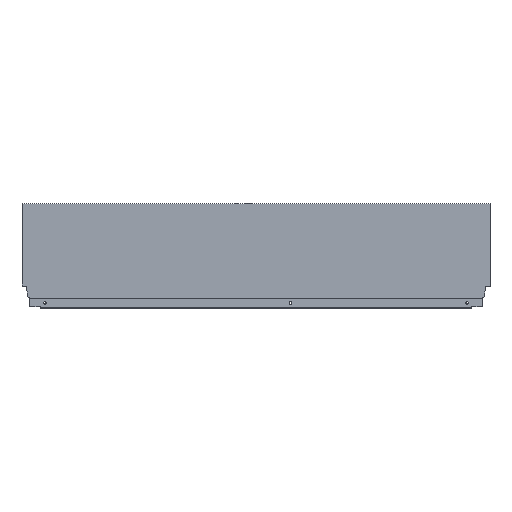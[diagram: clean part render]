
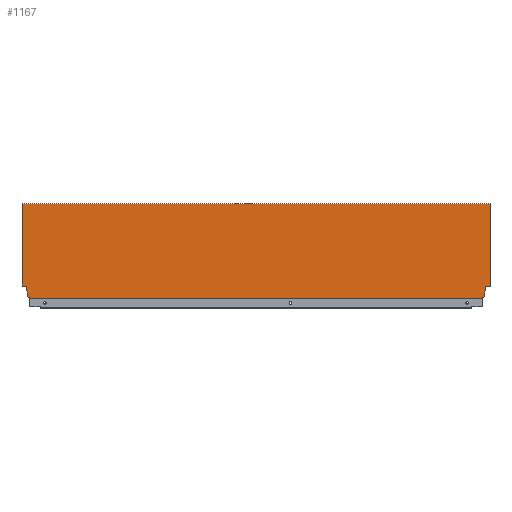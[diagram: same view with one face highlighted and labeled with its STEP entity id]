
A CAD part, top view. The second image highlights one B-rep face of the part: STEP entity #1167.
In plain terms, the highlighted planar face has unit normal (0, 0, 1).
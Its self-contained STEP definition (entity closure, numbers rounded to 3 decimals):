
#4 = PLANE ( 'NONE',  #809 ) ;
#90 = DIRECTION ( 'NONE',  ( 0., -1., 0. ) ) ;
#92 = CARTESIAN_POINT ( 'NONE',  ( -815., 164.7, 7.5 ) ) ;
#93 = DIRECTION ( 'NONE',  ( 1., 0., 0. ) ) ;
#95 = CARTESIAN_POINT ( 'NONE',  ( -13.004, 1.146, 7.5 ) ) ;
#235 = CARTESIAN_POINT ( 'NONE',  ( -815., 21.2, 7.5 ) ) ;
#236 = CARTESIAN_POINT ( 'NONE',  ( -8.9, 10.765, 7.5 ) ) ;
#238 = CARTESIAN_POINT ( 'NONE',  ( -801.996, 1.146, 7.5 ) ) ;
#240 = CARTESIAN_POINT ( 'NONE',  ( -7.06, 21.2, 7.5 ) ) ;
#245 = CARTESIAN_POINT ( 'NONE',  ( -807.94, 21.2, 7.5 ) ) ;
#247 = CARTESIAN_POINT ( 'NONE',  ( -806.1, 10.765, 7.5 ) ) ;
#251 = CARTESIAN_POINT ( 'NONE',  ( -13.004, 1.146, 7.5 ) ) ;
#252 = CARTESIAN_POINT ( 'NONE',  ( -806.1, 2.64, 7.5 ) ) ;
#256 = CARTESIAN_POINT ( 'NONE',  ( -13.004, 0., 7.5 ) ) ;
#257 = CARTESIAN_POINT ( 'NONE',  ( -801.996, 0., 7.5 ) ) ;
#266 = CARTESIAN_POINT ( 'NONE',  ( 0., 164.7, 7.5 ) ) ;
#270 = CARTESIAN_POINT ( 'NONE',  ( 0., 21.2, 7.5 ) ) ;
#276 = CARTESIAN_POINT ( 'NONE',  ( -8.9, 2.64, 7.5 ) ) ;
#305 = VERTEX_POINT ( 'NONE', #1389 ) ;
#327 = VERTEX_POINT ( 'NONE', #276 ) ;
#333 = VERTEX_POINT ( 'NONE', #270 ) ;
#337 = VERTEX_POINT ( 'NONE', #266 ) ;
#345 = VERTEX_POINT ( 'NONE', #257 ) ;
#346 = VERTEX_POINT ( 'NONE', #256 ) ;
#349 = VERTEX_POINT ( 'NONE', #252 ) ;
#350 = VERTEX_POINT ( 'NONE', #251 ) ;
#354 = VERTEX_POINT ( 'NONE', #247 ) ;
#356 = VERTEX_POINT ( 'NONE', #245 ) ;
#361 = VERTEX_POINT ( 'NONE', #240 ) ;
#363 = VERTEX_POINT ( 'NONE', #238 ) ;
#365 = VERTEX_POINT ( 'NONE', #236 ) ;
#366 = VERTEX_POINT ( 'NONE', #235 ) ;
#463 = EDGE_LOOP ( 'NONE', ( #1407, #1418, #1417, #1419, #1414, #1415, #1416, #1394, #1396, #1398, #1528, #1500, #1538, #1408 ) ) ;
#569 = DIRECTION ( 'NONE',  ( 1., 0., 0. ) ) ;
#570 = CARTESIAN_POINT ( 'NONE',  ( -815., 0., 7.5 ) ) ;
#573 = DIRECTION ( 'NONE',  ( -1., 0., 0. ) ) ;
#579 = CARTESIAN_POINT ( 'NONE',  ( -820., 21.2, 7.5 ) ) ;
#582 = DIRECTION ( 'NONE',  ( -0.174, 0.985, 0. ) ) ;
#584 = CARTESIAN_POINT ( 'NONE',  ( -807.94, 21.2, 7.5 ) ) ;
#586 = DIRECTION ( 'NONE',  ( 0., 1., 0. ) ) ;
#590 = CARTESIAN_POINT ( 'NONE',  ( -806.1, 10.765, 7.5 ) ) ;
#593 = DIRECTION ( 'NONE',  ( -0.94, 0.342, 0. ) ) ;
#596 = CARTESIAN_POINT ( 'NONE',  ( -806.1, 2.64, 7.5 ) ) ;
#605 = DIRECTION ( 'NONE',  ( 0., -1., 0. ) ) ;
#610 = CARTESIAN_POINT ( 'NONE',  ( -815., 0., 7.5 ) ) ;
#615 = DIRECTION ( 'NONE',  ( -0.94, -0.342, 0. ) ) ;
#621 = CARTESIAN_POINT ( 'NONE',  ( -8.9, 2.64, 7.5 ) ) ;
#623 = DIRECTION ( 'NONE',  ( 0., -1., 0. ) ) ;
#624 = CARTESIAN_POINT ( 'NONE',  ( -8.9, 10.765, 7.5 ) ) ;
#627 = DIRECTION ( 'NONE',  ( 0., -1., 0. ) ) ;
#630 = CARTESIAN_POINT ( 'NONE',  ( 0., 0., 7.5 ) ) ;
#634 = DIRECTION ( 'NONE',  ( -0.174, -0.985, 0. ) ) ;
#636 = CARTESIAN_POINT ( 'NONE',  ( -7.06, 21.2, 7.5 ) ) ;
#644 = DIRECTION ( 'NONE',  ( -1., 0., 0. ) ) ;
#647 = CARTESIAN_POINT ( 'NONE',  ( 0., 21.2, 7.5 ) ) ;
#648 = DIRECTION ( 'NONE',  ( 0., 1., 0. ) ) ;
#650 = CARTESIAN_POINT ( 'NONE',  ( -801.996, 1.146, 7.5 ) ) ;
#708 = EDGE_CURVE ( 'NONE', #305, #337, #1077, .T. ) ;
#710 = EDGE_CURVE ( 'NONE', #333, #361, #1073, .T. ) ;
#712 = EDGE_CURVE ( 'NONE', #361, #365, #1069, .T. ) ;
#713 = EDGE_CURVE ( 'NONE', #337, #333, #1067, .T. ) ;
#714 = EDGE_CURVE ( 'NONE', #365, #327, #1065, .T. ) ;
#715 = EDGE_CURVE ( 'NONE', #327, #350, #1063, .T. ) ;
#716 = EDGE_CURVE ( 'NONE', #305, #366, #1061, .T. ) ;
#717 = EDGE_CURVE ( 'NONE', #350, #346, #1082, .T. ) ;
#718 = EDGE_CURVE ( 'NONE', #363, #349, #1057, .T. ) ;
#719 = EDGE_CURVE ( 'NONE', #349, #354, #1055, .T. ) ;
#720 = EDGE_CURVE ( 'NONE', #354, #356, #1053, .T. ) ;
#721 = EDGE_CURVE ( 'NONE', #356, #366, #1051, .T. ) ;
#722 = EDGE_CURVE ( 'NONE', #345, #346, #1049, .T. ) ;
#725 = EDGE_CURVE ( 'NONE', #345, #363, #1074, .T. ) ;
#809 = AXIS2_PLACEMENT_3D ( 'NONE', #1234, #1308, #1304 ) ;
#1025 = FACE_OUTER_BOUND ( 'NONE', #463, .T. ) ;
#1048 = VECTOR ( 'NONE', #569, 1000. ) ;
#1049 = LINE ( 'NONE', #570, #1048 ) ;
#1050 = VECTOR ( 'NONE', #573, 1000. ) ;
#1051 = LINE ( 'NONE', #579, #1050 ) ;
#1052 = VECTOR ( 'NONE', #582, 1000. ) ;
#1053 = LINE ( 'NONE', #584, #1052 ) ;
#1054 = VECTOR ( 'NONE', #586, 1000. ) ;
#1055 = LINE ( 'NONE', #590, #1054 ) ;
#1056 = VECTOR ( 'NONE', #593, 1000. ) ;
#1057 = LINE ( 'NONE', #596, #1056 ) ;
#1059 = VECTOR ( 'NONE', #90, 1000. ) ;
#1060 = VECTOR ( 'NONE', #605, 1000. ) ;
#1061 = LINE ( 'NONE', #610, #1060 ) ;
#1062 = VECTOR ( 'NONE', #615, 1000. ) ;
#1063 = LINE ( 'NONE', #621, #1062 ) ;
#1064 = VECTOR ( 'NONE', #623, 1000. ) ;
#1065 = LINE ( 'NONE', #624, #1064 ) ;
#1066 = VECTOR ( 'NONE', #627, 1000. ) ;
#1067 = LINE ( 'NONE', #630, #1066 ) ;
#1068 = VECTOR ( 'NONE', #634, 1000. ) ;
#1069 = LINE ( 'NONE', #636, #1068 ) ;
#1072 = VECTOR ( 'NONE', #644, 1000. ) ;
#1073 = LINE ( 'NONE', #647, #1072 ) ;
#1074 = LINE ( 'NONE', #650, #1080 ) ;
#1076 = VECTOR ( 'NONE', #93, 1000. ) ;
#1077 = LINE ( 'NONE', #92, #1076 ) ;
#1080 = VECTOR ( 'NONE', #648, 1000. ) ;
#1082 = LINE ( 'NONE', #95, #1059 ) ;
#1167 = ADVANCED_FACE ( 'NONE', ( #1025 ), #4, .T. ) ;
#1234 = CARTESIAN_POINT ( 'NONE',  ( -815., 0., 7.5 ) ) ;
#1304 = DIRECTION ( 'NONE',  ( 1., 0., 0. ) ) ;
#1308 = DIRECTION ( 'NONE',  ( 0., 0., 1. ) ) ;
#1389 = CARTESIAN_POINT ( 'NONE',  ( -815., 164.7, 7.5 ) ) ;
#1394 = ORIENTED_EDGE ( 'NONE', *, *, #717, .F. ) ;
#1396 = ORIENTED_EDGE ( 'NONE', *, *, #715, .F. ) ;
#1398 = ORIENTED_EDGE ( 'NONE', *, *, #714, .F. ) ;
#1407 = ORIENTED_EDGE ( 'NONE', *, *, #716, .T. ) ;
#1408 = ORIENTED_EDGE ( 'NONE', *, *, #708, .F. ) ;
#1414 = ORIENTED_EDGE ( 'NONE', *, *, #718, .F. ) ;
#1415 = ORIENTED_EDGE ( 'NONE', *, *, #725, .F. ) ;
#1416 = ORIENTED_EDGE ( 'NONE', *, *, #722, .T. ) ;
#1417 = ORIENTED_EDGE ( 'NONE', *, *, #720, .F. ) ;
#1418 = ORIENTED_EDGE ( 'NONE', *, *, #721, .F. ) ;
#1419 = ORIENTED_EDGE ( 'NONE', *, *, #719, .F. ) ;
#1500 = ORIENTED_EDGE ( 'NONE', *, *, #710, .F. ) ;
#1528 = ORIENTED_EDGE ( 'NONE', *, *, #712, .F. ) ;
#1538 = ORIENTED_EDGE ( 'NONE', *, *, #713, .F. ) ;
